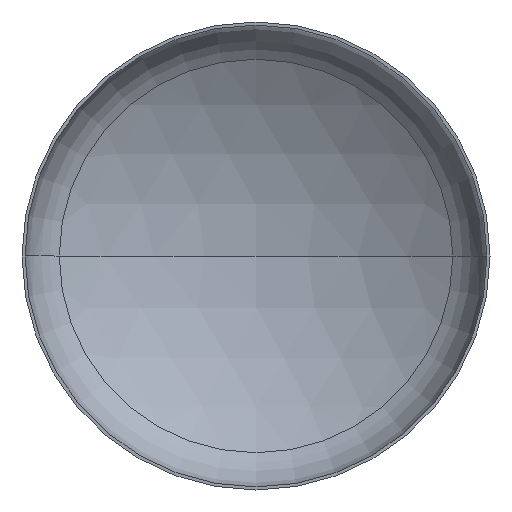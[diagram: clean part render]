
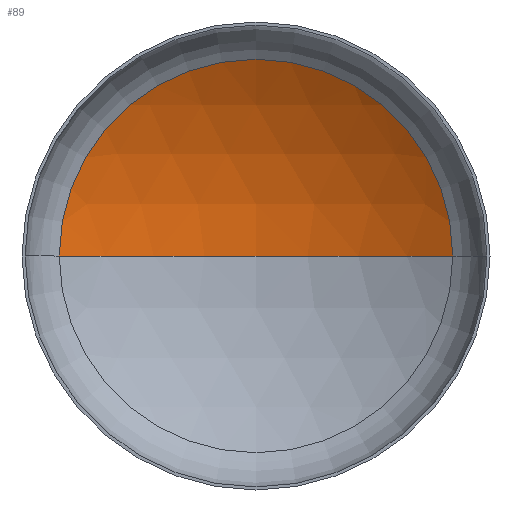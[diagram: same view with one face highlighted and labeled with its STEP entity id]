
A CAD part, front view. The second image highlights one B-rep face of the part: STEP entity #89.
In plain terms, the highlighted spherical face has radius 4000 mm.
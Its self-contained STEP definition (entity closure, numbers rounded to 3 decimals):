
#8 = VERTEX_POINT ( 'NONE', #368 ) ;
#17 = AXIS2_PLACEMENT_3D ( 'NONE', #133, #384, #311 ) ;
#19 = AXIS2_PLACEMENT_3D ( 'NONE', #169, #341, #49 ) ;
#23 = EDGE_LOOP ( 'NONE', ( #131, #166, #87 ) ) ;
#25 = AXIS2_PLACEMENT_3D ( 'NONE', #130, #165, #161 ) ;
#49 = DIRECTION ( 'NONE',  ( -1., 0., 0. ) ) ;
#66 = VERTEX_POINT ( 'NONE', #285 ) ;
#75 = AXIS2_PLACEMENT_3D ( 'NONE', #336, #339, #326 ) ;
#87 = ORIENTED_EDGE ( 'NONE', *, *, #333, .T. ) ;
#89 = ADVANCED_FACE ( 'NONE', ( #116 ), #397, .F. ) ;
#116 = FACE_OUTER_BOUND ( 'NONE', #23, .T. ) ;
#130 = CARTESIAN_POINT ( 'NONE',  ( 0., 755.165, 0. ) ) ;
#131 = ORIENTED_EDGE ( 'NONE', *, *, #357, .F. ) ;
#133 = CARTESIAN_POINT ( 'NONE',  ( 0., -2648.289, 0. ) ) ;
#141 = VERTEX_POINT ( 'NONE', #290 ) ;
#143 = CIRCLE ( 'NONE', #17, 4000. ) ;
#161 = DIRECTION ( 'NONE',  ( 1., 0., 0. ) ) ;
#165 = DIRECTION ( 'NONE',  ( 0., -1., 0. ) ) ;
#166 = ORIENTED_EDGE ( 'NONE', *, *, #355, .T. ) ;
#169 = CARTESIAN_POINT ( 'NONE',  ( 0., -2648.289, 0. ) ) ;
#221 = CIRCLE ( 'NONE', #19, 4000. ) ;
#230 = CIRCLE ( 'NONE', #25, 2101.548 ) ;
#285 = CARTESIAN_POINT ( 'NONE',  ( 0., 1351.711, 0. ) ) ;
#290 = CARTESIAN_POINT ( 'NONE',  ( 2101.548, 755.165, 0. ) ) ;
#311 = DIRECTION ( 'NONE',  ( 1., 0., 0. ) ) ;
#326 = DIRECTION ( 'NONE',  ( -1., 0., 0. ) ) ;
#333 = EDGE_CURVE ( 'NONE', #141, #8, #230, .T. ) ;
#336 = CARTESIAN_POINT ( 'NONE',  ( 0., -2648.289, 0. ) ) ;
#339 = DIRECTION ( 'NONE',  ( 0., 0., -1. ) ) ;
#341 = DIRECTION ( 'NONE',  ( 0., 0., -1. ) ) ;
#355 = EDGE_CURVE ( 'NONE', #66, #141, #221, .T. ) ;
#357 = EDGE_CURVE ( 'NONE', #66, #8, #143, .T. ) ;
#368 = CARTESIAN_POINT ( 'NONE',  ( -2101.548, 755.165, 0. ) ) ;
#384 = DIRECTION ( 'NONE',  ( 0., 0., 1. ) ) ;
#397 = SPHERICAL_SURFACE ( 'NONE', #75, 4000. ) ;
